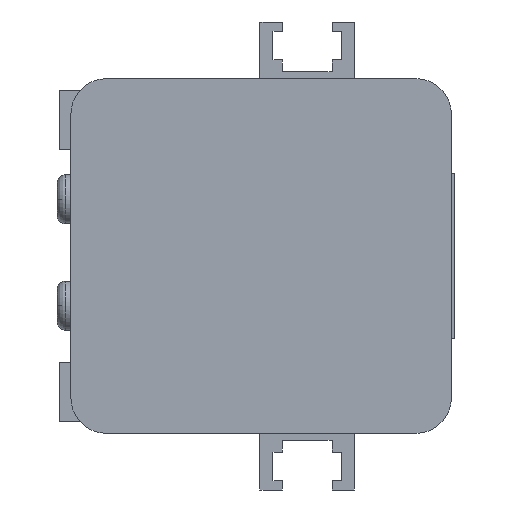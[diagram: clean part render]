
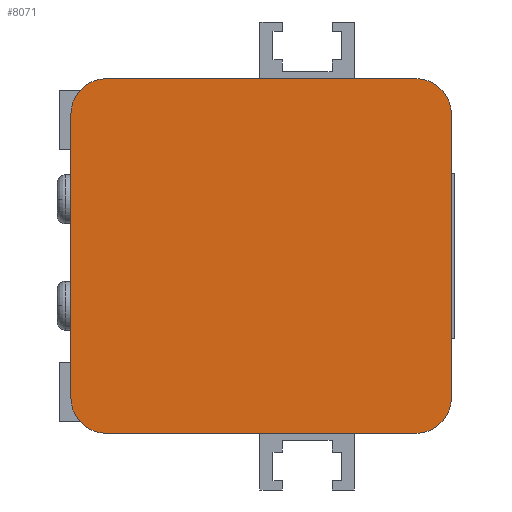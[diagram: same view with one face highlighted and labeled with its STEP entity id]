
A CAD part, left-side view. The second image highlights one B-rep face of the part: STEP entity #8071.
In plain terms, the highlighted planar face has unit normal (-1, 0, 0) as drawn and (0, 0, -1) by its records, which use the part's own axes.
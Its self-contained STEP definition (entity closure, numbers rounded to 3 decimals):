
#646=LINE('',#12321,#1430);
#652=LINE('',#12335,#1436);
#655=LINE('',#12348,#1439);
#689=LINE('',#12418,#1473);
#1430=VECTOR('',#9461,26.2);
#1436=VECTOR('',#9475,24.);
#1439=VECTOR('',#9494,26.2);
#1473=VECTOR('',#9536,24.);
#2064=PLANE('',#8594);
#2522=FACE_OUTER_BOUND('',#3012,.T.);
#3012=EDGE_LOOP('',(#6187,#6188,#6189,#6190,#6191,#6192,#6193,#6194));
#3414=CIRCLE('',#8581,3.);
#3419=CIRCLE('',#8590,3.);
#3420=CIRCLE('',#8595,3.);
#3421=CIRCLE('',#8596,3.);
#3789=VERTEX_POINT('',#12319);
#3790=VERTEX_POINT('',#12320);
#3793=VERTEX_POINT('',#12329);
#3794=VERTEX_POINT('',#12334);
#3795=VERTEX_POINT('',#12343);
#3796=VERTEX_POINT('',#12347);
#3827=VERTEX_POINT('',#12415);
#3828=VERTEX_POINT('',#12417);
#4700=EDGE_CURVE('',#3789,#3790,#646,.T.);
#4705=EDGE_CURVE('',#3790,#3793,#3414,.T.);
#4708=EDGE_CURVE('',#3793,#3794,#652,.T.);
#4713=EDGE_CURVE('',#3794,#3795,#3419,.T.);
#4715=EDGE_CURVE('',#3795,#3796,#655,.T.);
#4749=EDGE_CURVE('',#3827,#3789,#3420,.T.);
#4750=EDGE_CURVE('',#3828,#3827,#689,.T.);
#4751=EDGE_CURVE('',#3796,#3828,#3421,.T.);
#6187=ORIENTED_EDGE('',*,*,#4713,.F.);
#6188=ORIENTED_EDGE('',*,*,#4708,.F.);
#6189=ORIENTED_EDGE('',*,*,#4705,.F.);
#6190=ORIENTED_EDGE('',*,*,#4700,.F.);
#6191=ORIENTED_EDGE('',*,*,#4749,.F.);
#6192=ORIENTED_EDGE('',*,*,#4750,.F.);
#6193=ORIENTED_EDGE('',*,*,#4751,.F.);
#6194=ORIENTED_EDGE('',*,*,#4715,.F.);
#8071=ADVANCED_FACE('',(#2522),#2064,.F.);
#8581=AXIS2_PLACEMENT_3D('',#12330,#9468,#9469);
#8590=AXIS2_PLACEMENT_3D('',#12344,#9489,#9490);
#8594=AXIS2_PLACEMENT_3D('',#12414,#9532,#9533);
#8595=AXIS2_PLACEMENT_3D('',#12416,#9534,#9535);
#8596=AXIS2_PLACEMENT_3D('',#12419,#9537,#9538);
#9461=DIRECTION('',(0.,1.,0.));
#9468=DIRECTION('center_axis',(0.,0.,1.));
#9469=DIRECTION('ref_axis',(0.,-1.,0.));
#9475=DIRECTION('',(-1.,0.,0.));
#9489=DIRECTION('center_axis',(0.,0.,1.));
#9490=DIRECTION('ref_axis',(1.,0.,0.));
#9494=DIRECTION('',(0.,-1.,0.));
#9532=DIRECTION('center_axis',(0.,0.,1.));
#9533=DIRECTION('ref_axis',(1.,0.,0.));
#9534=DIRECTION('center_axis',(0.,0.,1.));
#9535=DIRECTION('ref_axis',(-1.,0.,0.));
#9536=DIRECTION('',(1.,0.,0.));
#9537=DIRECTION('center_axis',(0.,0.,1.));
#9538=DIRECTION('ref_axis',(0.,1.,0.));
#12319=CARTESIAN_POINT('',(17.105,-11.4,-230.));
#12320=CARTESIAN_POINT('',(17.105,14.8,-230.));
#12321=CARTESIAN_POINT('',(17.105,-11.4,-230.));
#12329=CARTESIAN_POINT('',(14.105,17.8,-230.));
#12330=CARTESIAN_POINT('Origin',(14.105,14.8,-230.));
#12334=CARTESIAN_POINT('',(-9.895,17.8,-230.));
#12335=CARTESIAN_POINT('',(14.105,17.8,-230.));
#12343=CARTESIAN_POINT('',(-12.895,14.8,-230.));
#12344=CARTESIAN_POINT('Origin',(-9.895,14.8,-230.));
#12347=CARTESIAN_POINT('',(-12.895,-11.4,-230.));
#12348=CARTESIAN_POINT('',(-12.895,14.8,-230.));
#12414=CARTESIAN_POINT('Origin',(2.105,1.7,-230.));
#12415=CARTESIAN_POINT('',(14.105,-14.4,-230.));
#12416=CARTESIAN_POINT('Origin',(14.105,-11.4,-230.));
#12417=CARTESIAN_POINT('',(-9.895,-14.4,-230.));
#12418=CARTESIAN_POINT('',(-9.895,-14.4,-230.));
#12419=CARTESIAN_POINT('Origin',(-9.895,-11.4,-230.));
